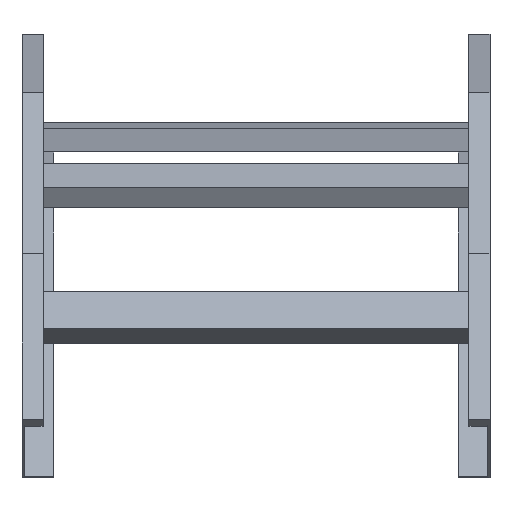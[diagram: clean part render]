
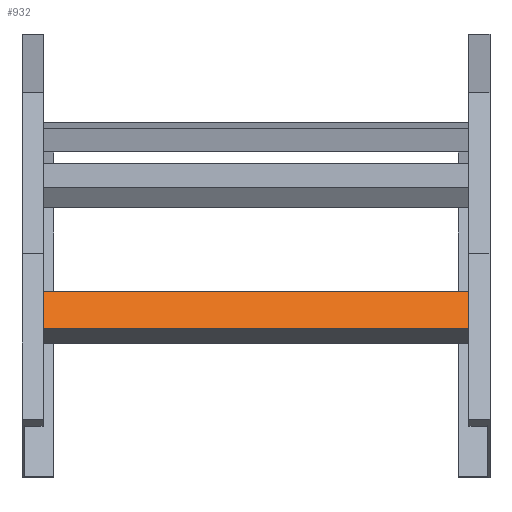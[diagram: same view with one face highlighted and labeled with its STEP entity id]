
A CAD part, top view. The second image highlights one B-rep face of the part: STEP entity #932.
In plain terms, the highlighted planar face has unit normal (0, 0.609, 0.793) as drawn and (0, 1, 0) by its records, which use the part's own axes.
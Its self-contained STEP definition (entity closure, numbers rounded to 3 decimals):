
#60 = PLANE ( 'NONE',  #1191 ) ;
#78 = DIRECTION ( 'NONE',  ( 0., 0., -1. ) ) ;
#79 = DIRECTION ( 'NONE',  ( 0., 0., 1. ) ) ;
#111 = VERTEX_POINT ( 'NONE', #304 ) ;
#136 = ORIENTED_EDGE ( 'NONE', *, *, #1414, .T. ) ;
#163 = ORIENTED_EDGE ( 'NONE', *, *, #1321, .T. ) ;
#211 = VERTEX_POINT ( 'NONE', #382 ) ;
#259 = LINE ( 'NONE', #1294, #374 ) ;
#291 = CARTESIAN_POINT ( 'NONE',  ( 198., 20., 20.25 ) ) ;
#304 = CARTESIAN_POINT ( 'NONE',  ( -198., 20., 20.25 ) ) ;
#374 = VECTOR ( 'NONE', #549, 1000. ) ;
#382 = CARTESIAN_POINT ( 'NONE',  ( -198., 20., -20.25 ) ) ;
#433 = VECTOR ( 'NONE', #502, 1000. ) ;
#484 = VECTOR ( 'NONE', #79, 1000. ) ;
#494 = CARTESIAN_POINT ( 'NONE',  ( -198., 20., 20.25 ) ) ;
#502 = DIRECTION ( 'NONE',  ( 0., 0., 1. ) ) ;
#549 = DIRECTION ( 'NONE',  ( -1., 0., 0. ) ) ;
#578 = ORIENTED_EDGE ( 'NONE', *, *, #1576, .F. ) ;
#584 = VERTEX_POINT ( 'NONE', #650 ) ;
#610 = FACE_OUTER_BOUND ( 'NONE', #990, .T. ) ;
#650 = CARTESIAN_POINT ( 'NONE',  ( 198., 20., -20.25 ) ) ;
#681 = EDGE_CURVE ( 'NONE', #584, #766, #855, .T. ) ;
#740 = DIRECTION ( 'NONE',  ( 0., -1., 0. ) ) ;
#766 = VERTEX_POINT ( 'NONE', #816 ) ;
#809 = DIRECTION ( 'NONE',  ( -1., 0., 0. ) ) ;
#816 = CARTESIAN_POINT ( 'NONE',  ( 198., 20., 20.25 ) ) ;
#855 = LINE ( 'NONE', #1379, #484 ) ;
#932 = ADVANCED_FACE ( 'NONE', ( #610 ), #60, .F. ) ;
#933 = LINE ( 'NONE', #291, #1194 ) ;
#990 = EDGE_LOOP ( 'NONE', ( #136, #578, #1218, #163 ) ) ;
#1105 = CARTESIAN_POINT ( 'NONE',  ( 198., 20., 20.25 ) ) ;
#1191 = AXIS2_PLACEMENT_3D ( 'NONE', #1105, #740, #78 ) ;
#1194 = VECTOR ( 'NONE', #809, 1000. ) ;
#1218 = ORIENTED_EDGE ( 'NONE', *, *, #681, .F. ) ;
#1294 = CARTESIAN_POINT ( 'NONE',  ( 198., 20., -20.25 ) ) ;
#1321 = EDGE_CURVE ( 'NONE', #584, #211, #259, .T. ) ;
#1379 = CARTESIAN_POINT ( 'NONE',  ( 198., 20., 20.25 ) ) ;
#1414 = EDGE_CURVE ( 'NONE', #211, #111, #1642, .T. ) ;
#1576 = EDGE_CURVE ( 'NONE', #766, #111, #933, .T. ) ;
#1642 = LINE ( 'NONE', #494, #433 ) ;
